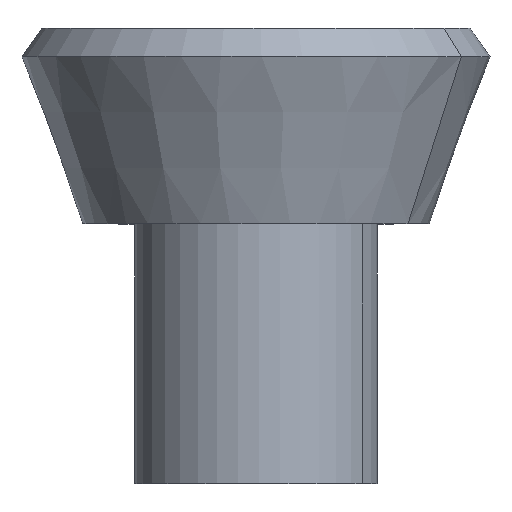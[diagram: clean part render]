
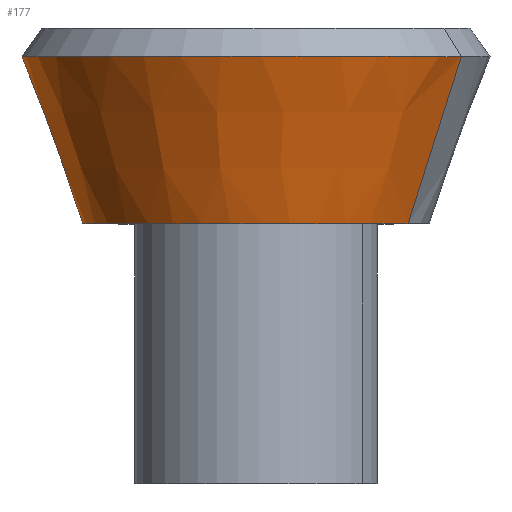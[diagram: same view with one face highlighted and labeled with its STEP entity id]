
A CAD part, top view. The second image highlights one B-rep face of the part: STEP entity #177.
In plain terms, the highlighted conical face has half-angle 20 degrees and reference radius 100 mm.
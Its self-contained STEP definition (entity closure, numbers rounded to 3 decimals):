
#114=CARTESIAN_POINT('Axis2P3D Location',(0.,0.,0.)) ;
#118=CARTESIAN_POINT('Vertex',(87.758,0.,47.943)) ;
#120=CARTESIAN_POINT('Vertex',(-87.758,0.,-47.943)) ;
#147=CARTESIAN_POINT('Axis2P3D Location',(0.,0.,0.)) ;
#152=CARTESIAN_POINT('Line Origine',(103.151,48.19,56.352)) ;
#156=CARTESIAN_POINT('Vertex',(118.543,96.38,64.761)) ;
#159=CARTESIAN_POINT('Axis2P3D Location',(0.,96.38,0.)) ;
#163=CARTESIAN_POINT('Vertex',(-118.543,96.38,-64.761)) ;
#166=CARTESIAN_POINT('Line Origine',(-103.151,48.19,-56.352)) ;
#115=DIRECTION('Axis2P3D Direction',(0.,-1.,0.)) ;
#148=DIRECTION('Axis2P3D Direction',(0.,1.,-0.)) ;
#149=DIRECTION('Axis2P3D XDirection',(0.878,0.,0.479)) ;
#153=DIRECTION('Vector Direction',(0.3,0.94,0.164)) ;
#160=DIRECTION('Axis2P3D Direction',(0.,1.,0.)) ;
#167=DIRECTION('Vector Direction',(-0.3,0.94,-0.164)) ;
#116=AXIS2_PLACEMENT_3D('Circle Axis2P3D',#114,#115,$) ;
#150=AXIS2_PLACEMENT_3D('Cone Axis2P3D',#147,#148,#149) ;
#161=AXIS2_PLACEMENT_3D('Circle Axis2P3D',#159,#160,$) ;
#172=ORIENTED_EDGE('',*,*,#122,.F.) ;
#173=ORIENTED_EDGE('',*,*,#158,.T.) ;
#174=ORIENTED_EDGE('',*,*,#165,.T.) ;
#175=ORIENTED_EDGE('',*,*,#170,.F.) ;
#154=VECTOR('Line Direction',#153,1.) ;
#168=VECTOR('Line Direction',#167,1.) ;
#177=ADVANCED_FACE('PartBody',(#176),#151,.T.) ;
#117=CIRCLE('generated circle',#116,100.) ;
#162=CIRCLE('generated circle',#161,135.079) ;
#151=CONICAL_SURFACE('Cone',#150,100.,0.349) ;
#122=EDGE_CURVE('',#119,#121,#117,.T.) ;
#158=EDGE_CURVE('',#119,#157,#155,.T.) ;
#165=EDGE_CURVE('',#157,#164,#162,.F.) ;
#170=EDGE_CURVE('',#121,#164,#169,.T.) ;
#171=EDGE_LOOP('',(#172,#173,#174,#175)) ;
#176=FACE_OUTER_BOUND('',#171,.T.) ;
#155=LINE('Line',#152,#154) ;
#169=LINE('Line',#166,#168) ;
#119=VERTEX_POINT('',#118) ;
#121=VERTEX_POINT('',#120) ;
#157=VERTEX_POINT('',#156) ;
#164=VERTEX_POINT('',#163) ;
